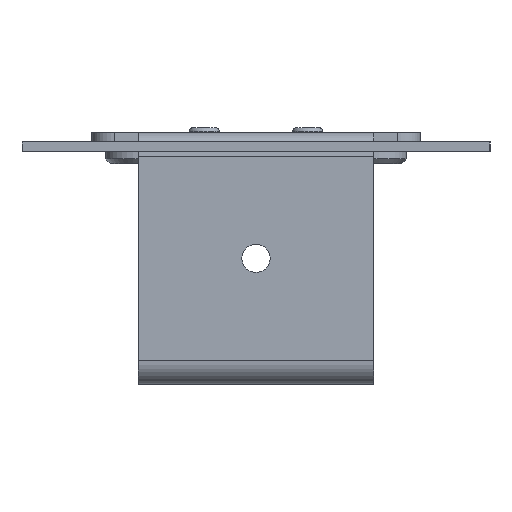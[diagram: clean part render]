
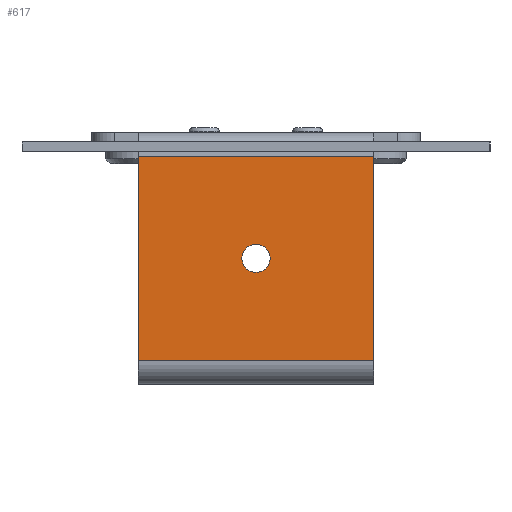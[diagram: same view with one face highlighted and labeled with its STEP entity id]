
A CAD part, left-side view. The second image highlights one B-rep face of the part: STEP entity #617.
In plain terms, the highlighted planar face has unit normal (-1, 0, 0).
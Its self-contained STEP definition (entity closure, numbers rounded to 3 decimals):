
#187 = DIRECTION ( 'NONE',  ( 0., 1., 0. ) ) ;
#453 = DIRECTION ( 'NONE',  ( 0., 1., 0. ) ) ;
#458 = LINE ( 'NONE', #2493, #1311 ) ;
#459 = ORIENTED_EDGE ( 'NONE', *, *, #1308, .T. ) ;
#562 = CARTESIAN_POINT ( 'NONE',  ( 0., 48.5, 25. ) ) ;
#617 = ADVANCED_FACE ( 'NONE', ( #2777, #1076 ), #4980, .T. ) ;
#826 = EDGE_LOOP ( 'NONE', ( #2667, #2645, #3185, #459 ) ) ;
#871 = EDGE_CURVE ( 'NONE', #3885, #956, #2341, .T. ) ;
#936 = DIRECTION ( 'NONE',  ( 0., -1., 0. ) ) ;
#956 = VERTEX_POINT ( 'NONE', #3028 ) ;
#1076 = FACE_OUTER_BOUND ( 'NONE', #826, .T. ) ;
#1285 = EDGE_CURVE ( 'NONE', #3061, #3885, #3541, .T. ) ;
#1308 = EDGE_CURVE ( 'NONE', #1354, #956, #458, .T. ) ;
#1311 = VECTOR ( 'NONE', #4773, 1000. ) ;
#1354 = VERTEX_POINT ( 'NONE', #562 ) ;
#1523 = CIRCLE ( 'NONE', #2376, 3. ) ;
#1735 = EDGE_CURVE ( 'NONE', #2025, #4380, #4502, .T. ) ;
#1747 = AXIS2_PLACEMENT_3D ( 'NONE', #3043, #4222, #4099 ) ;
#1769 = CARTESIAN_POINT ( 'NONE',  ( 0., 48.5, 25. ) ) ;
#2025 = VERTEX_POINT ( 'NONE', #2543 ) ;
#2048 = EDGE_CURVE ( 'NONE', #3061, #1354, #2566, .T. ) ;
#2113 = CARTESIAN_POINT ( 'NONE',  ( 0., 5., -25. ) ) ;
#2341 = LINE ( 'NONE', #2372, #4270 ) ;
#2372 = CARTESIAN_POINT ( 'NONE',  ( 0., 48.5, -25. ) ) ;
#2376 = AXIS2_PLACEMENT_3D ( 'NONE', #4577, #4186, #4954 ) ;
#2493 = CARTESIAN_POINT ( 'NONE',  ( 0., 48.5, 25. ) ) ;
#2543 = CARTESIAN_POINT ( 'NONE',  ( 0., 29.75, 0. ) ) ;
#2566 = LINE ( 'NONE', #1769, #4419 ) ;
#2584 = ORIENTED_EDGE ( 'NONE', *, *, #3992, .F. ) ;
#2645 = ORIENTED_EDGE ( 'NONE', *, *, #1285, .F. ) ;
#2667 = ORIENTED_EDGE ( 'NONE', *, *, #871, .F. ) ;
#2777 = FACE_BOUND ( 'NONE', #3356, .T. ) ;
#2873 = DIRECTION ( 'NONE',  ( 0., 0., -1. ) ) ;
#3028 = CARTESIAN_POINT ( 'NONE',  ( 0., 48.5, -25. ) ) ;
#3043 = CARTESIAN_POINT ( 'NONE',  ( 0., 48.5, 25. ) ) ;
#3061 = VERTEX_POINT ( 'NONE', #4231 ) ;
#3139 = CARTESIAN_POINT ( 'NONE',  ( 0., 23.75, 0. ) ) ;
#3185 = ORIENTED_EDGE ( 'NONE', *, *, #2048, .T. ) ;
#3212 = CARTESIAN_POINT ( 'NONE',  ( 0., 5., 25. ) ) ;
#3320 = AXIS2_PLACEMENT_3D ( 'NONE', #4020, #4043, #936 ) ;
#3356 = EDGE_LOOP ( 'NONE', ( #2584, #4216 ) ) ;
#3541 = LINE ( 'NONE', #3212, #4325 ) ;
#3885 = VERTEX_POINT ( 'NONE', #2113 ) ;
#3992 = EDGE_CURVE ( 'NONE', #4380, #2025, #1523, .T. ) ;
#4020 = CARTESIAN_POINT ( 'NONE',  ( 0., 26.75, 0. ) ) ;
#4043 = DIRECTION ( 'NONE',  ( -1., 0., 0. ) ) ;
#4099 = DIRECTION ( 'NONE',  ( 0., -1., 0. ) ) ;
#4186 = DIRECTION ( 'NONE',  ( -1., 0., 0. ) ) ;
#4216 = ORIENTED_EDGE ( 'NONE', *, *, #1735, .F. ) ;
#4222 = DIRECTION ( 'NONE',  ( -1., 0., 0. ) ) ;
#4231 = CARTESIAN_POINT ( 'NONE',  ( 0., 5., 25. ) ) ;
#4270 = VECTOR ( 'NONE', #453, 1000. ) ;
#4325 = VECTOR ( 'NONE', #2873, 1000. ) ;
#4380 = VERTEX_POINT ( 'NONE', #3139 ) ;
#4419 = VECTOR ( 'NONE', #187, 1000. ) ;
#4502 = CIRCLE ( 'NONE', #3320, 3. ) ;
#4577 = CARTESIAN_POINT ( 'NONE',  ( 0., 26.75, 0. ) ) ;
#4773 = DIRECTION ( 'NONE',  ( 0., 0., -1. ) ) ;
#4954 = DIRECTION ( 'NONE',  ( 0., -1., 0. ) ) ;
#4980 = PLANE ( 'NONE',  #1747 ) ;
